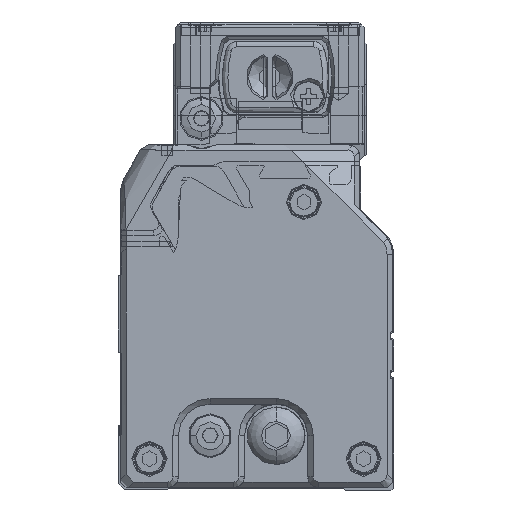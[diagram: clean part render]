
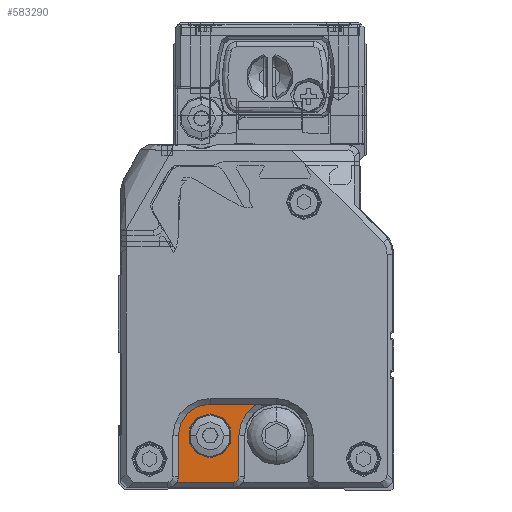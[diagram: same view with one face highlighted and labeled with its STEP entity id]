
A CAD part, left-side view. The second image highlights one B-rep face of the part: STEP entity #583290.
In plain terms, the highlighted planar face has unit normal (-1, 0, 0) as drawn and (1, 0, 0) by its records, which use the part's own axes.
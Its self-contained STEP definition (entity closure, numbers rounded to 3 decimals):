
#581740=CARTESIAN_POINT('',(6264.177,2.462,
3.148));
#581750=DIRECTION('',(-1.,0.,0.));
#581760=DIRECTION('',(0.,1.,0.));
#581770=AXIS2_PLACEMENT_3D('',#581740,#581750,#581760);
#581780=CIRCLE('',#581770,5.75);
#581790=CARTESIAN_POINT('',(6264.177,8.212,
3.148));
#581800=VERTEX_POINT('',#581790);
#581810=CARTESIAN_POINT('',(6264.177,2.462,
-2.602));
#581820=VERTEX_POINT('',#581810);
#581830=EDGE_CURVE('',#581800,#581820,#581780,.T.);
#582240=CARTESIAN_POINT('',(6264.177,8.212,
3.148));
#582250=DIRECTION('',(0.,0.,1.));
#582260=VECTOR('',#582250,1.);
#582270=LINE('',#582240,#582260);
#582280=CARTESIAN_POINT('',(6264.177,8.212,
10.598));
#582290=VERTEX_POINT('',#582280);
#582300=EDGE_CURVE('',#581800,#582290,#582270,.T.);
#582560=CARTESIAN_POINT('',(6264.177,-5.938,
-12.8));
#582570=DIRECTION('',(-1.,0.,0.));
#582580=DIRECTION('',(0.,0.,-1.));
#582590=AXIS2_PLACEMENT_3D('',#582560,#582570,#582580);
#582600=PLANE('',#582590);
#582610=CARTESIAN_POINT('',(6264.177,4.212,
11.598));
#582620=DIRECTION('',(0.,-1.,0.));
#582630=VECTOR('',#582620,1.);
#582640=LINE('',#582610,#582630);
#582650=CARTESIAN_POINT('',(6264.177,8.48,
11.598));
#582660=VERTEX_POINT('',#582650);
#582670=CARTESIAN_POINT('',(6264.177,-1.788,
11.598));
#582680=VERTEX_POINT('',#582670);
#582690=EDGE_CURVE('',#582660,#582680,#582640,.T.);
#582700=ORIENTED_EDGE('',*,*,#582690,.T.);
#582710=CARTESIAN_POINT('',(6264.177,10.212,
10.598));
#582720=DIRECTION('',(-1.,0.,0.));
#582730=DIRECTION('',(0.,1.,0.));
#582740=AXIS2_PLACEMENT_3D('',#582710,#582720,#582730);
#582750=CIRCLE('',#582740,2.);
#582760=EDGE_CURVE('',#582290,#582660,#582750,.T.);
#582770=ORIENTED_EDGE('',*,*,#582760,.T.);
#582780=ORIENTED_EDGE('',*,*,#582300,.T.);
#582790=ORIENTED_EDGE('',*,*,#581830,.F.);
#582800=CARTESIAN_POINT('',(6264.177,-5.888,
-2.602));
#582810=DIRECTION('',(0.,1.,0.));
#582820=VECTOR('',#582810,1.);
#582830=LINE('',#582800,#582820);
#582840=CARTESIAN_POINT('',(6264.177,-6.002,
-2.602));
#582850=VERTEX_POINT('',#582840);
#582860=EDGE_CURVE('',#582850,#581820,#582830,.T.);
#582870=ORIENTED_EDGE('',*,*,#582860,.T.);
#582880=CARTESIAN_POINT('',(6264.177,-9.538,
3.148));
#582890=DIRECTION('',(-1.,0.,0.));
#582900=DIRECTION('',(0.,1.,0.));
#582910=AXIS2_PLACEMENT_3D('',#582880,#582890,#582900);
#582920=CIRCLE('',#582910,6.75);
#582930=CARTESIAN_POINT('',(6264.177,-2.788,
3.148));
#582940=VERTEX_POINT('',#582930);
#582950=EDGE_CURVE('',#582940,#582850,#582920,.T.);
#582960=ORIENTED_EDGE('',*,*,#582950,.T.);
#582970=CARTESIAN_POINT('',(6264.177,-2.788,
6.873));
#582980=DIRECTION('',(0.,0.,-1.));
#582990=VECTOR('',#582980,1.);
#583000=LINE('',#582970,#582990);
#583010=CARTESIAN_POINT('',(6264.177,-2.788,
10.598));
#583020=VERTEX_POINT('',#583010);
#583030=EDGE_CURVE('',#583020,#582940,#583000,.T.);
#583040=ORIENTED_EDGE('',*,*,#583030,.T.);
#583050=CARTESIAN_POINT('',(6264.177,-1.788,
10.598));
#583060=DIRECTION('',(-1.,0.,0.));
#583070=DIRECTION('',(0.,1.,0.));
#583080=AXIS2_PLACEMENT_3D('',#583050,#583060,#583070);
#583090=CIRCLE('',#583080,1.);
#583100=EDGE_CURVE('',#583020,#582680,#583090,.T.);
#583110=ORIENTED_EDGE('',*,*,#583100,.F.);
#583120=EDGE_LOOP('',(#583110,#583040,#582960,#582870,#582790,#582780,
#582770,#582700));
#583130=FACE_OUTER_BOUND('',#583120,.T.);
#583140=CARTESIAN_POINT('',(6264.177,2.462,
3.148));
#583150=DIRECTION('',(-1.,0.,0.));
#583160=DIRECTION('',(0.,0.,-1.));
#583170=AXIS2_PLACEMENT_3D('',#583140,#583150,#583160);
#583180=CIRCLE('',#583170,4.);
#583190=CARTESIAN_POINT('',(6264.177,2.462,
7.148));
#583200=VERTEX_POINT('',#583190);
#583210=CARTESIAN_POINT('',(6264.177,2.462,
-0.852));
#583220=VERTEX_POINT('',#583210);
#583230=EDGE_CURVE('',#583200,#583220,#583180,.T.);
#583240=ORIENTED_EDGE('',*,*,#583230,.T.);
#583250=EDGE_CURVE('',#583220,#583200,#583180,.T.);
#583260=ORIENTED_EDGE('',*,*,#583250,.T.);
#583270=EDGE_LOOP('',(#583260,#583240));
#583280=FACE_BOUND('',#583270,.T.);
#583290=ADVANCED_FACE('',(#583130,#583280),#582600,.F.);
